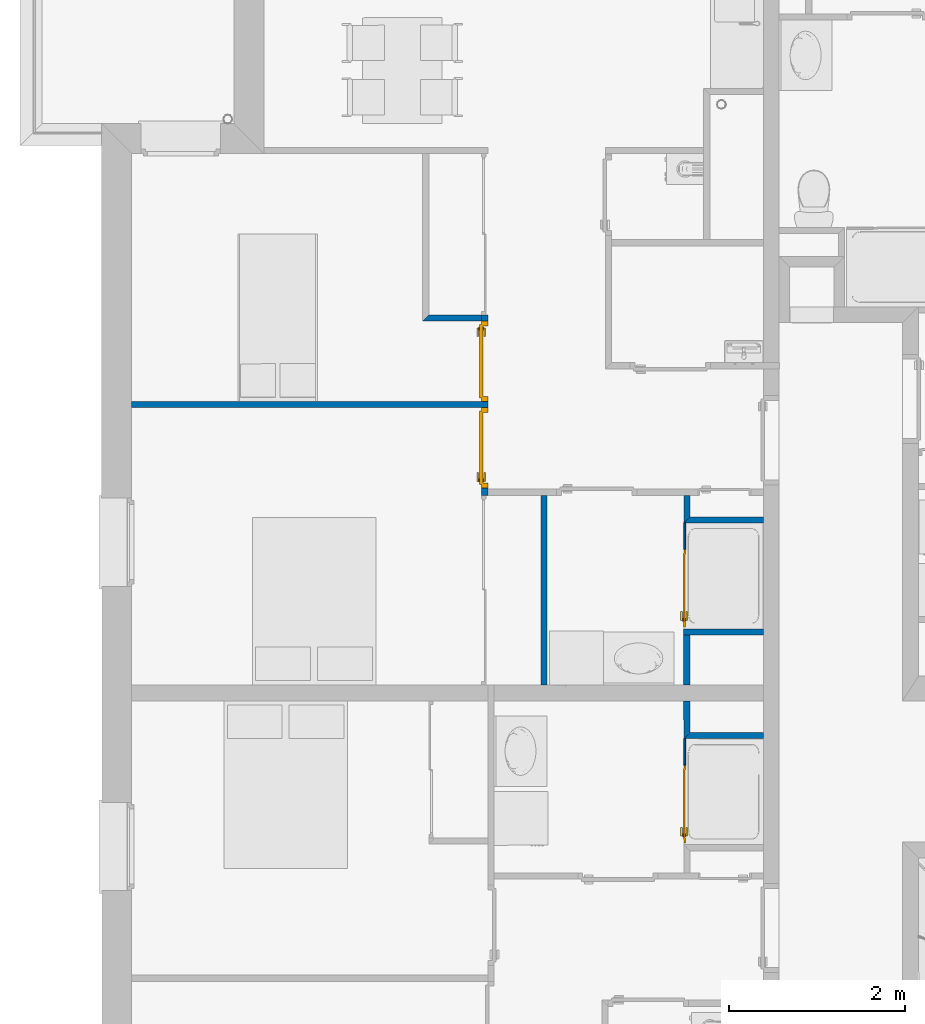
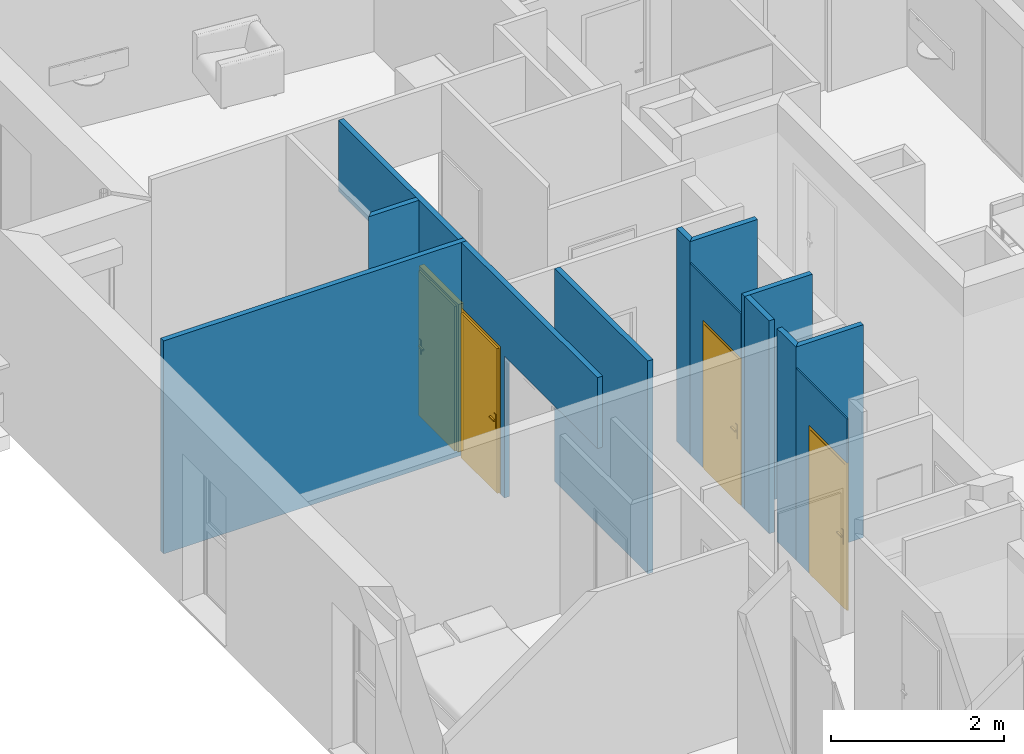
# One storey, part 29 of 164: 12 walls, 4 doors, 6 openings.
"""IFC2X3 building model written with IfcOpenShell, lengths in millimetres."""

from ifc_helpers import new_model, entity, si_unit, converted_unit, derived_unit, money_unit, direction, frame, origin_with_axes, origin_2d_with_axis, place, context, subcontext, project, spatial, polyline, rectangle, outline, extrude, faceted_brep, source, transform, mapped, material, layer, layer_set, layer_usage, type_object, element, fill, save


model = new_model("IFC2X3")

# Units and contexts
model_context = context("Model", 3, precision=0.01, world=origin_with_axes(), true_north=direction((0.0, 1.0)))
body_context = subcontext(model_context, "Body", "Model", "MODEL_VIEW")
ifc_project = project(units=[si_unit("LENGTHUNIT", "METRE", prefix="MILLI"), si_unit("AREAUNIT", "SQUARE_METRE"), si_unit("VOLUMEUNIT", "CUBIC_METRE"), converted_unit("PLANEANGLEUNIT", "DEGREE", entity("IfcPlaneAngleMeasure", 0.0174532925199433), si_unit("PLANEANGLEUNIT", "RADIAN"), dimensions=[0, 0, 0, 0, 0, 0, 0]), money_unit("USD"), converted_unit("TIMEUNIT", "Year", entity("IfcTimeMeasure", 31557600.0), si_unit("TIMEUNIT", "SECOND"), dimensions=[0, 0, 1, 0, 0, 0, 0]), si_unit("MASSUNIT", "GRAM", prefix="KILO"), si_unit("THERMODYNAMICTEMPERATUREUNIT", "DEGREE_CELSIUS"), si_unit("LUMINOUSINTENSITYUNIT", "LUMEN"), si_unit("ENERGYUNIT", "JOULE", prefix="MEGA"), derived_unit("THERMALCONDUCTANCEUNIT", [(si_unit("POWERUNIT", "WATT"), 1), (si_unit("LENGTHUNIT", "METRE"), -1), (si_unit("THERMODYNAMICTEMPERATUREUNIT", "KELVIN"), -1)]), derived_unit("SPECIFICHEATCAPACITYUNIT", [(si_unit("ENERGYUNIT", "JOULE"), 1), (si_unit("MASSUNIT", "GRAM", prefix="KILO"), -1), (si_unit("THERMODYNAMICTEMPERATUREUNIT", "KELVIN"), -1)]), derived_unit("MASSDENSITYUNIT", [(si_unit("MASSUNIT", "GRAM", prefix="KILO"), 1), (si_unit("VOLUMEUNIT", "CUBIC_METRE"), -1)])], contexts=[model_context])

# Site, building, storey
site_placement = place(None, origin_with_axes())
site = spatial("IfcSite", under=ifc_project, at=site_placement, Name="Site", CompositionType="ELEMENT")
building_placement = place(site_placement, origin_with_axes())
building = spatial("IfcBuilding", under=site, at=building_placement, Name="Bâtiment", CompositionType="ELEMENT")
storey_placement = place(building_placement, frame((0.0, 0.0, 5750.0), z_axis=(0.0, 0.0, 1.0), x_axis=(1.0, 0.0, 0.0)))
storey = spatial("IfcBuildingStorey", under=building, at=storey_placement, Name="Etage1", CompositionType="ELEMENT", Elevation=5750.0)

# Walls
ifc_material_1 = material(Name="Hachure solide 268963992")
ifc_layer_1 = layer(ifc_material_1, 70.0, ventilated="UNKNOWN")
ifc_layer_set_1 = layer_set([ifc_layer_1], Name="Cloison 70 0826278243")
ifc_layer_usage_1 = layer_usage(ifc_layer_set_1, "AXIS2", "POSITIVE", -70.0)
wall_type_1 = type_object("IfcWallType", Name="Cloison 70 0826278243 70", PredefinedType="NOTDEFINED")
wall_1_placement = place(storey_placement, frame((2223233.063000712, -633043.6024693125, 0.0), z_axis=(0.0, 0.0, 1.0), x_axis=(-0.008688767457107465, 0.9999622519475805, 0.0)))
element("IfcWallStandardCase", 1, at=wall_1_placement, inside=storey, type_object=wall_type_1, material=ifc_layer_usage_1, Name="Mur-150", context=body_context, shape_type="SweptSolid", body=[
    extrude(outline(polyline([(69.3944057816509, -69.99999999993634), (429.4957890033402, -70.00000000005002), (430.1040256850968, 0.0), (0.0, 0.0), (69.3944057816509, -69.99999999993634)])), origin_with_axes(), (0.0, 0.0, 1.0), 3000.0),
])
ifc_layer_usage_2 = layer_usage(ifc_layer_set_1, "AXIS2", "POSITIVE", -70.0)
wall_2_placement = place(storey_placement, frame((2224312.382590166, -633043.6024693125, 0.0), z_axis=(0.0, 0.0, 1.0), x_axis=(-1.0, 0.0, 0.0)))
element("IfcWallStandardCase", 2, at=wall_2_placement, inside=storey, type_object=wall_type_1, material=ifc_layer_usage_2, Name="Mur-150", context=body_context, shape_type="SweptSolid", body=[
    extrude(outline(polyline([(180.0003891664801, -69.99999999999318), (1009.925183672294, -69.99999999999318), (1079.31958945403, 0.0), (180.0000000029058, 0.0), (180.0003891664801, -69.99999999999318)])), origin_with_axes(), (0.0, 0.0, 1.0), 3000.0),
])
ifc_layer_usage_3 = layer_usage(ifc_layer_set_1, "AXIS2", "POSITIVE", -70.0)
wall_3_placement = place(storey_placement, frame((2221010.800412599, -629290.7358451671, 0.0), z_axis=(0.0, 0.0, 1.0), x_axis=(-0.9999999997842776, -2.077125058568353e-05, 0.0)))
element("IfcWallStandardCase", 3, at=wall_3_placement, inside=storey, type_object=wall_type_1, material=ifc_layer_usage_3, Name="Mur-149", context=body_context, shape_type="SweptSolid", body=[
    extrude(outline(polyline([(0.0, -70.00000000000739), (4036.544678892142, -70.00000000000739), (4036.544678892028, 0.0), (0.0, 0.0), (0.0, -70.00000000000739)])), origin_with_axes(), (0.0, 0.0, 1.0), 3000.0),
])

# Wall, openings, doors
ifc_layer_usage_4 = layer_usage(ifc_layer_set_1, "AXIS2", "POSITIVE", -70.0)
wall_4_placement = place(storey_placement, frame((2220940.801172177, -632613.5146792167, 0.0), z_axis=(0.0, 0.0, 1.0), x_axis=(9.654938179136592e-08, 0.9999999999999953, 0.0)))
wall_4 = element("IfcWallStandardCase", 4, at=wall_4_placement, inside=storey, type_object=wall_type_1, material=ifc_layer_usage_4, Name="Mur-149", context=body_context, shape_type="SweptSolid", body=[
    extrude(outline(polyline([(180.0000067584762, -69.99999999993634), (6162.300556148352, -70.00000000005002), (6162.300556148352, 0.0), (180.0000000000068, 1.13686837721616e-10), (180.0000067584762, -69.99999999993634)])), origin_with_axes(), (0.0, 0.0, 1.0), 3000.0),
])
opening_1_placement = place(wall_4_placement, frame((3847.778411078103, 0.0, 0.0), z_axis=(0.0, 0.0, 1.0), x_axis=(1.0, 0.0, 0.0)))
opening_1 = element("IfcOpeningElement", 5, at=opening_1_placement, cuts=wall_4, Name="Por-276", context=body_context, shape_type="SweptSolid", body=[
    extrude(rectangle(XDim=910.0, YDim=2080.0, at=origin_2d_with_axis()), frame((0.0, -70.00000000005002, 1040.0), z_axis=(9.654938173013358e-08, -0.9999999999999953, 0.0), x_axis=(-0.9999999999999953, -9.654938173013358e-08, 0.0)), (0.0, 0.0, -1.0), 140.0),
])
opening_2_placement = place(wall_4_placement, frame((5287.539417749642, -1.13686837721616e-10, 0.0), z_axis=(0.0, 0.0, 1.0), x_axis=(1.0, 0.0, 0.0)))
element("IfcOpeningElement", 6, at=opening_2_placement, cuts=wall_4, Name="Por-321", context=body_context, shape_type="SweptSolid", body=[
    extrude(rectangle(XDim=1829.522276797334, YDim=2000.0, at=origin_2d_with_axis()), frame((-6.758469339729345e-06, 0.0005105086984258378, 1000.0), z_axis=(9.654938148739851e-08, -0.9999999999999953, 0.0), x_axis=(0.9999999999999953, 9.654938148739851e-08, 0.0)), (0.0, 0.0, -1.0), 70.0),
    extrude(rectangle(XDim=1829.522276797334, YDim=2000.0, at=origin_2d_with_axis()), frame((-6.758469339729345e-06, 0.0005105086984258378, 1000.0), z_axis=(-9.654938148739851e-08, 0.9999999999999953, 0.0), x_axis=(0.9999999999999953, 9.654938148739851e-08, 0.0)), (0.0, 0.0, -1.0), 70.0),
])
opening_3_placement = place(wall_4_placement, frame((2867.778411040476, -1.13686837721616e-10, 0.0), z_axis=(0.0, 0.0, 1.0), x_axis=(1.0, 0.0, 0.0)))
opening_3 = element("IfcOpeningElement", 7, at=opening_3_placement, cuts=wall_4, Name="Por-275", context=body_context, shape_type="SweptSolid", body=[
    extrude(rectangle(XDim=910.0, YDim=2080.0, at=origin_2d_with_axis()), frame((0.0, -70.00000000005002, 1040.0), z_axis=(-9.654938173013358e-08, 0.9999999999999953, 0.0), x_axis=(0.9999999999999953, 9.654938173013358e-08, 0.0)), (0.0, 0.0, 1.0), 140.0),
])
opening_4_placement = place(wall_4_placement, frame((1254.551809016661, 0.0, 0.0), z_axis=(0.0, 0.0, 1.0), x_axis=(1.0, 0.0, 0.0)))
element("IfcOpeningElement", 8, at=opening_4_placement, cuts=wall_4, Name="Por-321", context=body_context, shape_type="SweptSolid", body=[
    extrude(rectangle(XDim=2149.103632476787, YDim=2000.0, at=origin_2d_with_axis()), frame((-6.758469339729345e-06, 0.0001211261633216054, 1000.0), z_axis=(9.654938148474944e-08, -0.9999999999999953, 0.0), x_axis=(0.9999999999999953, 9.654938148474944e-08, 0.0)), (0.0, 0.0, -1.0), 70.0),
    extrude(rectangle(XDim=2149.103632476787, YDim=2000.0, at=origin_2d_with_axis()), frame((-6.758469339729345e-06, 0.0001211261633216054, 1000.0), z_axis=(-9.654938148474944e-08, 0.9999999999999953, 0.0), x_axis=(0.9999999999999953, 9.654938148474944e-08, 0.0)), (0.0, 0.0, -1.0), 70.0),
])
door_style = type_object("IfcDoorStyle", Name="Porte_1v", ConstructionType="NOTDEFINED", OperationType="NOTDEFINED", ParameterTakesPrecedence=False, Sizeable=False)
shared_shape_1 = source(origin_with_axes(), body_context, "Body", "Brep", [
    faceted_brep([(455.0, 0.0, 0.0), (415.0000000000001, 0.0, 0.0), (415.0000000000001, 0.0, 2040.0), (-415.0000000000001, 0.0, 2040.0), (-415.0000000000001, 0.0, 0.0), (-455.0, 0.0, 0.0), (-455.0, 0.0, 2080.0), (455.0, 0.0, 2080.0), (455.0, -70.0, 0.0), (400.0, -70.0, 0.0), (400.0, -15.0, 0.0), (415.0000000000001, -15.0, 0.0), (415.0000000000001, -15.0, 2040.0), (-415.0000000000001, -15.0, 2040.0), (-415.0000000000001, -15.0, 0.0), (-400.0, -15.0, 0.0), (-400.0, -70.0, 0.0), (-455.0, -70.0, 0.0), (-455.0, -70.0, 2080.0), (455.0, -70.0, 2080.0), (-400.0, -70.0, 2025.0), (400.0, -70.0, 2025.0), (400.0, -15.0, 2025.0), (-400.0, -15.0, 2025.0)], [[[0, 1, 2, 3, 4, 5, 6, 7]], [[0, 8, 9, 10, 11, 1]], [[1, 11, 12, 2]], [[2, 12, 13, 3]], [[3, 13, 14, 4]], [[5, 4, 14, 15, 16, 17]], [[18, 6, 5, 17]], [[19, 7, 6, 18]], [[8, 0, 7, 19]], [[9, 8, 19, 18, 17, 16, 20, 21]], [[10, 9, 21, 22]], [[11, 10, 22, 23, 15, 14, 13, 12]], [[23, 20, 16, 15]], [[22, 21, 20, 23]]]),
    faceted_brep([(-350.0000000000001, -15.0, 900.0), (-390.0, -15.0, 900.0), (-390.0, -15.0, 1100.0), (-350.0000000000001, -15.0, 1100.0), (-350.0000000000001, -25.0, 900.0), (-390.0, -25.0, 900.0), (-390.0, -25.0, 1100.0), (-350.0000000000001, -25.0, 1100.0)], [[[0, 1, 2, 3]], [[1, 0, 4, 5]], [[2, 1, 5, 6]], [[3, 2, 6, 7]], [[0, 3, 7, 4]], [[5, 4, 7, 6]]]),
    faceted_brep([(-280.0, -25.0, 1000.0), (-380.0, -25.0, 1000.0), (-380.0, -25.0, 1020.0), (-280.0, -25.0, 1020.0), (-280.0, -45.0, 1000.0), (-380.0, -45.0, 1000.0), (-380.0, -45.0, 1020.0), (-280.0, -45.0, 1020.0)], [[[0, 1, 2, 3]], [[1, 0, 4, 5]], [[2, 1, 5, 6]], [[3, 2, 6, 7]], [[0, 3, 7, 4]], [[5, 4, 7, 6]]]),
    faceted_brep([(-350.0000000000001, 35.0, 900.0), (-390.0, 35.0, 900.0), (-390.0, 35.0, 1100.0), (-350.0000000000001, 35.0, 1100.0), (-350.0000000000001, 25.0, 900.0), (-390.0, 25.0, 900.0), (-390.0, 25.0, 1100.0), (-350.0000000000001, 25.0, 1100.0)], [[[0, 1, 2, 3]], [[1, 0, 4, 5]], [[2, 1, 5, 6]], [[3, 2, 6, 7]], [[0, 3, 7, 4]], [[5, 4, 7, 6]]]),
    faceted_brep([(-280.0, 55.00000000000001, 1000.0), (-380.0, 55.00000000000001, 1000.0), (-380.0, 55.00000000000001, 1020.0), (-280.0, 55.00000000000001, 1020.0), (-280.0, 35.0, 1000.0), (-380.0, 35.0, 1000.0), (-380.0, 35.0, 1020.0), (-280.0, 35.0, 1020.0)], [[[0, 1, 2, 3]], [[1, 0, 4, 5]], [[2, 1, 5, 6]], [[3, 2, 6, 7]], [[0, 3, 7, 4]], [[5, 4, 7, 6]]]),
    faceted_brep([(-415.0000000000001, 25.0, 0.0), (415.0000000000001, 25.0, 0.0), (415.0000000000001, -15.0, 0.0), (-415.0000000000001, -15.0, 0.0), (-415.0000000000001, 25.0, 2040.0), (415.0000000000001, 25.0, 2040.0), (415.0000000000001, -15.0, 2040.0), (-415.0000000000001, -15.0, 2040.0)], [[[0, 1, 2, 3]], [[0, 4, 5, 1]], [[1, 5, 6, 2]], [[3, 2, 6, 7]], [[4, 0, 3, 7]], [[5, 4, 7, 6]]]),
])
door_1_placement = place(opening_3_placement, frame((-415.0000000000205, 2.273736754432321e-10, 0.0), z_axis=(0.0, 0.0, 1.0), x_axis=(1.0, 0.0, 0.0)))
door_1 = element("IfcDoor", 9, at=door_1_placement, inside=storey, type_object=door_style, Name="Por-275", OverallHeight=2040.0, OverallWidth=830.0, context=body_context, shape_type="MappedRepresentation", body=[
    mapped(shared_shape_1, transform((414.9999932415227, 0.0002768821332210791, 0.0))),
])
fill(opening_3, door_1)
shared_shape_2 = source(origin_with_axes(), body_context, "Body", "Brep", [
    faceted_brep([(-454.9999999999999, 0.0, 0.0), (-454.9999999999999, 0.0, 2080.0), (454.9999999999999, 0.0, 2080.0), (454.9999999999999, 0.0, 0.0), (414.9999999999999, 0.0, 0.0), (414.9999999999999, 0.0, 2040.0), (-414.9999999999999, 0.0, 2040.0), (-414.9999999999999, 0.0, 0.0), (-454.9999999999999, -69.99999999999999, 0.0), (-454.9999999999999, -69.99999999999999, 2080.0), (454.9999999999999, -69.99999999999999, 2080.0), (454.9999999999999, -69.99999999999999, 0.0), (399.9999999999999, -69.99999999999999, 0.0), (399.9999999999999, -15.0, 0.0), (414.9999999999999, -15.0, 0.0), (414.9999999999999, -15.0, 2040.0), (-414.9999999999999, -14.99999999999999, 2040.0), (-414.9999999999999, -14.99999999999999, 0.0), (-399.9999999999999, -14.99999999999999, 0.0), (-399.9999999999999, -69.99999999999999, 0.0), (-399.9999999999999, -69.99999999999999, 2025.0), (399.9999999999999, -69.99999999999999, 2025.0), (399.9999999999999, -15.0, 2025.0), (-399.9999999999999, -14.99999999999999, 2025.0)], [[[0, 1, 2, 3, 4, 5, 6, 7]], [[8, 9, 1, 0]], [[9, 10, 2, 1]], [[10, 11, 3, 2]], [[3, 11, 12, 13, 14, 4]], [[5, 4, 14, 15]], [[6, 5, 15, 16]], [[7, 6, 16, 17]], [[0, 7, 17, 18, 19, 8]], [[19, 20, 21, 12, 11, 10, 9, 8]], [[22, 13, 12, 21]], [[17, 16, 15, 14, 13, 22, 23, 18]], [[18, 23, 20, 19]], [[23, 22, 21, 20]]]),
    faceted_brep([(350.0, -15.0, 900.0), (350.0, -15.0, 1100.0), (389.9999999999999, -15.0, 1100.0), (389.9999999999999, -15.0, 900.0), (350.0, -25.0, 900.0), (350.0, -25.0, 1100.0), (389.9999999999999, -25.0, 1100.0), (389.9999999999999, -25.0, 900.0)], [[[0, 1, 2, 3]], [[0, 4, 5, 1]], [[1, 5, 6, 2]], [[2, 6, 7, 3]], [[3, 7, 4, 0]], [[7, 6, 5, 4]]]),
    faceted_brep([(279.9999999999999, -25.0, 1000.0), (279.9999999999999, -25.0, 1020.0), (379.9999999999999, -25.0, 1020.0), (379.9999999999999, -25.0, 1000.0), (279.9999999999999, -45.0, 1000.0), (279.9999999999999, -45.0, 1020.0), (379.9999999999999, -45.0, 1020.0), (379.9999999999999, -45.0, 1000.0)], [[[0, 1, 2, 3]], [[0, 4, 5, 1]], [[1, 5, 6, 2]], [[2, 6, 7, 3]], [[3, 7, 4, 0]], [[7, 6, 5, 4]]]),
    faceted_brep([(350.0, 34.99999999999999, 900.0), (350.0, 34.99999999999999, 1100.0), (389.9999999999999, 34.99999999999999, 1100.0), (389.9999999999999, 34.99999999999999, 900.0), (350.0, 24.99999999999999, 900.0), (350.0, 24.99999999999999, 1100.0), (389.9999999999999, 24.99999999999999, 1100.0), (389.9999999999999, 24.99999999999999, 900.0)], [[[0, 1, 2, 3]], [[0, 4, 5, 1]], [[1, 5, 6, 2]], [[2, 6, 7, 3]], [[3, 7, 4, 0]], [[7, 6, 5, 4]]]),
    faceted_brep([(279.9999999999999, 54.99999999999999, 1000.0), (279.9999999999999, 54.99999999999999, 1020.0), (379.9999999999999, 54.99999999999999, 1020.0), (379.9999999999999, 54.99999999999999, 1000.0), (279.9999999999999, 34.99999999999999, 1000.0), (279.9999999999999, 34.99999999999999, 1020.0), (379.9999999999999, 34.99999999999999, 1020.0), (379.9999999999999, 34.99999999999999, 1000.0)], [[[0, 1, 2, 3]], [[0, 4, 5, 1]], [[1, 5, 6, 2]], [[2, 6, 7, 3]], [[3, 7, 4, 0]], [[7, 6, 5, 4]]]),
    faceted_brep([(414.9999999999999, 24.99999999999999, 0.0), (414.9999999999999, -15.0, 0.0), (-414.9999999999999, -14.99999999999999, 0.0), (-414.9999999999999, 25.0, 0.0), (414.9999999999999, 24.99999999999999, 2040.0), (414.9999999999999, -15.0, 2040.0), (-414.9999999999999, -14.99999999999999, 2040.0), (-414.9999999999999, 25.0, 2040.0)], [[[0, 1, 2, 3]], [[4, 5, 1, 0]], [[1, 5, 6, 2]], [[3, 2, 6, 7]], [[0, 3, 7, 4]], [[7, 6, 5, 4]]]),
])
door_2_placement = place(opening_1_placement, frame((-415.0000000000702, 1.13686837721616e-10, 0.0), z_axis=(0.0, 0.0, 1.0), x_axis=(1.0, 0.0, 0.0)))
door_2 = element("IfcDoor", 10, at=door_2_placement, inside=storey, type_object=door_style, Name="Por-276", OverallHeight=2040.0, OverallWidth=830.0, context=body_context, shape_type="MappedRepresentation", body=[
    mapped(shared_shape_2, transform((414.9999932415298, 0.0003715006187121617, 0.0))),
])
fill(opening_1, door_2)

# Walls
ifc_layer_usage_5 = layer_usage(ifc_layer_set_1, "AXIS2", "POSITIVE", -70.0)
wall_5_placement = place(storey_placement, frame((2220940.8001164, -628310.7362681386, 0.0), z_axis=(0.0, 0.0, 1.0), x_axis=(-0.9999999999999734, -2.308093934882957e-07, 0.0)))
element("IfcWallStandardCase", 11, at=wall_5_placement, inside=storey, type_object=wall_type_1, material=ifc_layer_usage_5, Name="Mur-149", context=body_context, shape_type="SweptSolid", body=[
    extrude(outline(polyline([(-0.001494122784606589, -70.00000000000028), (599.9999212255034, -70.00000000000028), (669.9999999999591, 0.0), (-0.001471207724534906, 0.0), (-0.001494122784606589, -70.00000000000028)])), origin_with_axes(), (0.0, 0.0, 1.0), 3000.0),
])
ifc_layer_usage_6 = layer_usage(ifc_layer_set_1, "AXIS2", "NEGATIVE", 70.0)
wall_6_placement = place(storey_placement, frame((2224312.377520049, -631797.9538992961, 0.0), z_axis=(0.0, 0.0, 1.0), x_axis=(-1.0, 0.0, 0.0)))
element("IfcWallStandardCase", 12, at=wall_6_placement, inside=storey, type_object=wall_type_1, material=ifc_layer_usage_6, Name="Mur-150", context=body_context, shape_type="SweptSolid", body=[
    extrude(outline(polyline([(180.0018550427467, 0.0), (1083.218645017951, 0.0), (1083.218645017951, 70.00000000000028), (180.0014658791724, 70.00000000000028), (180.0018550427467, 0.0)])), origin_with_axes(), (0.0, 0.0, 1.0), 3000.0),
])
ifc_layer_usage_7 = layer_usage(ifc_layer_set_1, "AXIS2", "POSITIVE", -70.0)
wall_7_placement = place(storey_placement, frame((2221610.799312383, -632613.5146792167, 0.0), z_axis=(0.0, 0.0, 1.0), x_axis=(8.945405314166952e-07, 0.9999999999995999, 0.0)))
element("IfcWallStandardCase", 13, at=wall_7_placement, inside=storey, type_object=wall_type_1, material=ifc_layer_usage_7, Name="Mur-149", context=body_context, shape_type="SweptSolid", body=[
    extrude(outline(polyline([(180.000062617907, -69.99999999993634), (2329.103681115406, -69.99999999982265), (2329.10361849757, 0.0), (180.0000000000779, 0.0), (180.000062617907, -69.99999999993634)])), origin_with_axes(), (0.0, 0.0, 1.0), 3000.0),
])
ifc_layer_usage_8 = layer_usage(ifc_layer_set_1, "AXIS2", "POSITIVE", -70.0)
wall_8_placement = place(storey_placement, frame((2223232.31835671, -630597.9541070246, 0.0), z_axis=(0.0, 0.0, 1.0), x_axis=(-2.308090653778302e-07, 0.9999999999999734, 0.0)))
element("IfcWallStandardCase", 14, at=wall_8_placement, inside=storey, type_object=wall_type_1, material=ifc_layer_usage_8, Name="Mur-149", context=body_context, shape_type="SweptSolid", body=[
    extrude(outline(polyline([(70.0000000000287, -70.00000000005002), (313.5430301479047, -69.99999999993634), (313.5430463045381, 1.13686837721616e-10), (0.0, 0.0), (70.0000000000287, -70.00000000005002)])), origin_with_axes(), (0.0, 0.0, 1.0), 3000.0),
])
ifc_layer_usage_9 = layer_usage(ifc_layer_set_1, "AXIS2", "NEGATIVE", 70.0)
wall_9_placement = place(storey_placement, frame((2223229.325926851, -631797.9538992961, 0.0), z_axis=(0.0, 0.0, 1.0), x_axis=(0.0, -1.0, 0.0)))
element("IfcWallStandardCase", 15, at=wall_9_placement, inside=storey, type_object=wall_type_1, material=ifc_layer_usage_9, Name="Mur-150", context=body_context, shape_type="SweptSolid", body=[
    extrude(outline(polyline([(70.00000000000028, 0.0), (635.5607799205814, 0.0), (635.5607799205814, 70.00000000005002), (70.00000000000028, 70.00000000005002), (70.00000000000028, 0.0)])), origin_with_axes(), (0.0, 0.0, 1.0), 3000.0),
])
ifc_layer_usage_10 = layer_usage(ifc_layer_set_1, "AXIS2", "POSITIVE", -70.0)
wall_10_placement = place(storey_placement, frame((2224312.368993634, -630597.9538577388, 0.0), z_axis=(0.0, 0.0, 1.0), x_axis=(-0.9999999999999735, -2.308094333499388e-07, 0.0)))
element("IfcWallStandardCase", 16, at=wall_10_placement, inside=storey, type_object=wall_type_1, material=ifc_layer_usage_10, Name="Mur-149", context=body_context, shape_type="SweptSolid", body=[
    extrude(outline(polyline([(180.0003730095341, -70.00000000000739), (1010.050636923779, -70.00000000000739), (1080.050636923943, 0.0), (180.0000000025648, 0.0), (180.0003730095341, -70.00000000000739)])), origin_with_axes(), (0.0, 0.0, 1.0), 3000.0),
])

# Wall, opening, door
ifc_material_2 = material(Name="Empty Fill 292498448")
ifc_layer_2 = layer(ifc_material_2, 20.0, ventilated="UNKNOWN")
ifc_layer_set_2 = layer_set([ifc_layer_2], Name="mur 2cm")
ifc_layer_usage_11 = layer_usage(ifc_layer_set_2, "AXIS2", "POSITIVE", -20.0)
wall_type_2 = type_object("IfcWallType", Name="mur 2cm 20", PredefinedType="NOTDEFINED")
wall_11_placement = place(storey_placement, frame((2223231.217300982, -634223.7114676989, 0.0), z_axis=(0.0, 0.0, 1.0), x_axis=(0.001564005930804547, 0.9999987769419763, 0.0)))
wall_11 = element("IfcWallStandardCase", 17, at=wall_11_placement, inside=storey, type_object=wall_type_2, material=ifc_layer_usage_11, Name="Mur-148", context=body_context, shape_type="SweptSolid", body=[
    extrude(outline(polyline([(0.0, -20.0000000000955), (1180.141721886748, -20.0000000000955), (1180.110441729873, 0.0), (0.0, 0.0), (0.0, -20.0000000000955)])), origin_with_axes(), (0.0, 0.0, 1.0), 2700.0),
])
opening_5_placement = place(wall_11_placement, frame((440.0000000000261, -1.13686837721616e-10, 0.0), z_axis=(0.0, 0.0, 1.0), x_axis=(1.0, 0.0, 0.0)))
opening_5 = element("IfcOpeningElement", 18, at=opening_5_placement, cuts=wall_11, Name="Por-288", context=body_context, shape_type="SweptSolid", body=[
    extrude(rectangle(XDim=880.0000119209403, YDim=2080.0, at=origin_2d_with_axis()), frame((5.960473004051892e-06, -20.0000000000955, 1040.0), z_axis=(0.0, 1.0, 0.0), x_axis=(1.0, 0.0, 0.0)), (0.0, 0.0, 1.0), 40.0),
])
shared_shape_3 = source(origin_with_axes(), body_context, "Body", "Brep", [
    faceted_brep([(440.0, 0.0, 0.0), (400.0, 0.0, 0.0), (400.0, 0.0, 2040.0), (-400.0, 0.0, 2040.0), (-400.0, 0.0, 0.0), (-440.0, 0.0, 0.0), (-440.0, 0.0, 2080.0), (440.0, 0.0, 2080.0), (440.0, -20.0, 0.0), (385.0, -20.0, 0.0), (385.0, -15.0, 0.0), (400.0, -15.0, 0.0), (400.0, -15.0, 2040.0), (-400.0, -15.0, 2040.0), (-400.0, -15.0, 0.0), (-385.0, -15.0, 0.0), (-385.0, -20.0, 0.0), (-440.0, -20.0, 0.0), (-440.0, -20.0, 2080.0), (440.0, -20.0, 2080.0), (-385.0, -20.0, 2025.0), (385.0, -20.0, 2025.0), (385.0, -15.0, 2025.0), (-385.0, -15.0, 2025.0)], [[[0, 1, 2, 3, 4, 5, 6, 7]], [[0, 8, 9, 10, 11, 1]], [[1, 11, 12, 2]], [[2, 12, 13, 3]], [[3, 13, 14, 4]], [[5, 4, 14, 15, 16, 17]], [[18, 6, 5, 17]], [[19, 7, 6, 18]], [[8, 0, 7, 19]], [[9, 8, 19, 18, 17, 16, 20, 21]], [[10, 9, 21, 22]], [[11, 10, 22, 23, 15, 14, 13, 12]], [[23, 20, 16, 15]], [[22, 21, 20, 23]]]),
    faceted_brep([(-335.0, -15.0, 900.0), (-375.0, -15.0, 900.0), (-375.0, -15.0, 1100.0), (-335.0, -15.0, 1100.0), (-335.0, -25.0, 900.0), (-375.0, -25.0, 900.0), (-375.0, -25.0, 1100.0), (-335.0, -25.0, 1100.0)], [[[0, 1, 2, 3]], [[1, 0, 4, 5]], [[2, 1, 5, 6]], [[3, 2, 6, 7]], [[0, 3, 7, 4]], [[5, 4, 7, 6]]]),
    faceted_brep([(-265.0, -25.0, 1000.0), (-365.0, -25.0, 1000.0), (-365.0, -25.0, 1020.0), (-265.0, -25.0, 1020.0), (-265.0, -45.0, 1000.0), (-365.0, -45.0, 1000.0), (-365.0, -45.0, 1020.0), (-265.0, -45.0, 1020.0)], [[[0, 1, 2, 3]], [[1, 0, 4, 5]], [[2, 1, 5, 6]], [[3, 2, 6, 7]], [[0, 3, 7, 4]], [[5, 4, 7, 6]]]),
    faceted_brep([(-335.0, 15.0, 900.0), (-375.0, 15.0, 900.0), (-375.0, 15.0, 1100.0), (-335.0, 15.0, 1100.0), (-335.0, 5.000000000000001, 900.0), (-375.0, 5.000000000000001, 900.0), (-375.0, 5.000000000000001, 1100.0), (-335.0, 5.000000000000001, 1100.0)], [[[0, 1, 2, 3]], [[1, 0, 4, 5]], [[2, 1, 5, 6]], [[3, 2, 6, 7]], [[0, 3, 7, 4]], [[5, 4, 7, 6]]]),
    faceted_brep([(-265.0, 35.0, 1000.0), (-365.0, 35.0, 1000.0), (-365.0, 35.0, 1020.0), (-265.0, 35.0, 1020.0), (-265.0, 15.0, 1000.0), (-365.0, 15.0, 1000.0), (-365.0, 15.0, 1020.0), (-265.0, 15.0, 1020.0)], [[[0, 1, 2, 3]], [[1, 0, 4, 5]], [[2, 1, 5, 6]], [[3, 2, 6, 7]], [[0, 3, 7, 4]], [[5, 4, 7, 6]]]),
    faceted_brep([(-400.0, 5.000000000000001, 0.0), (400.0, 5.000000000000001, 0.0), (400.0, -15.0, 0.0), (-400.0, -15.0, 0.0), (-400.0, 5.000000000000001, 2040.0), (400.0, 5.000000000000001, 2040.0), (400.0, -15.0, 2040.0), (-400.0, -15.0, 2040.0)], [[[0, 1, 2, 3]], [[0, 4, 5, 1]], [[1, 5, 6, 2]], [[3, 2, 6, 7]], [[4, 0, 3, 7]], [[5, 4, 7, 6]]]),
])
door_3_placement = place(opening_5_placement, frame((-400.0000000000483, -1.13686837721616e-10, 0.0), z_axis=(0.0, 0.0, 1.0), x_axis=(1.0, 0.0, 0.0)))
door_3 = element("IfcDoor", 19, at=door_3_placement, inside=storey, type_object=door_style, Name="Por-288", OverallHeight=2040.0, OverallWidth=800.0, context=body_context, shape_type="MappedRepresentation", body=[
    mapped(shared_shape_3, transform((400.0000000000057, 0.0, 0.0))),
])
fill(opening_5, door_3)

ifc_layer_usage_12 = layer_usage(ifc_layer_set_2, "AXIS2", "POSITIVE", -20.0)
wall_12_placement = place(storey_placement, frame((2223230.472747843, -631778.0628976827, 0.0), z_axis=(0.0, 0.0, 1.0), x_axis=(0.001564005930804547, 0.9999987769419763, 0.0)))
wall_12 = element("IfcWallStandardCase", 20, at=wall_12_placement, inside=storey, type_object=wall_type_2, material=ifc_layer_usage_12, Name="Mur-148", context=body_context, shape_type="SweptSolid", body=[
    extrude(outline(polyline([(0.0, -20.0000000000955), (1180.141518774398, -19.99999999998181), (1180.110234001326, 0.0), (0.0, 0.0), (0.0, -20.0000000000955)])), origin_with_axes(), (0.0, 0.0, 1.0), 2700.0),
])
opening_6_placement = place(wall_12_placement, frame((440.0000000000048, 1.13686837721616e-10, 0.0), z_axis=(0.0, 0.0, 1.0), x_axis=(1.0, 0.0, 0.0)))
opening_6 = element("IfcOpeningElement", 21, at=opening_6_placement, cuts=wall_12, Name="Por-288", context=body_context, shape_type="SweptSolid", body=[
    extrude(rectangle(XDim=880.0000119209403, YDim=2080.0, at=origin_2d_with_axis()), frame((5.960465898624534e-06, -20.0000000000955, 1040.0), z_axis=(0.0, 1.0, 0.0), x_axis=(1.0, 0.0, 0.0)), (0.0, 0.0, 1.0), 40.0),
])
door_4_placement = place(opening_6_placement, frame((-399.9999999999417, 1.13686837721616e-10, 0.0), z_axis=(0.0, 0.0, 1.0), x_axis=(1.0, 0.0, 0.0)))
door_4 = element("IfcDoor", 22, at=door_4_placement, inside=storey, type_object=door_style, Name="Por-288", OverallHeight=2040.0, OverallWidth=800.0, context=body_context, shape_type="MappedRepresentation", body=[
    mapped(shared_shape_3, transform((399.9999999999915, 0.0, 0.0))),
])
fill(opening_6, door_4)

save(model, "model.ifc")
